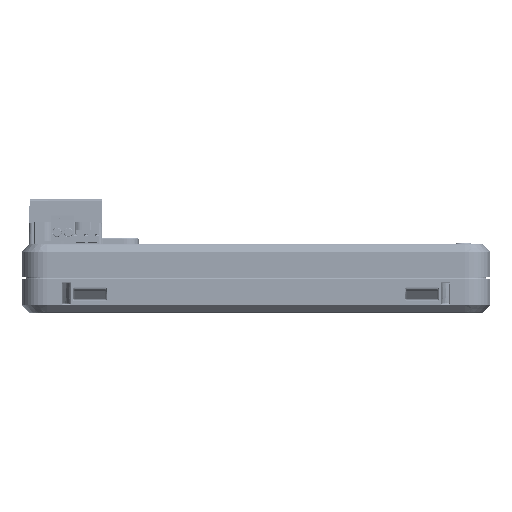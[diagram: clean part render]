
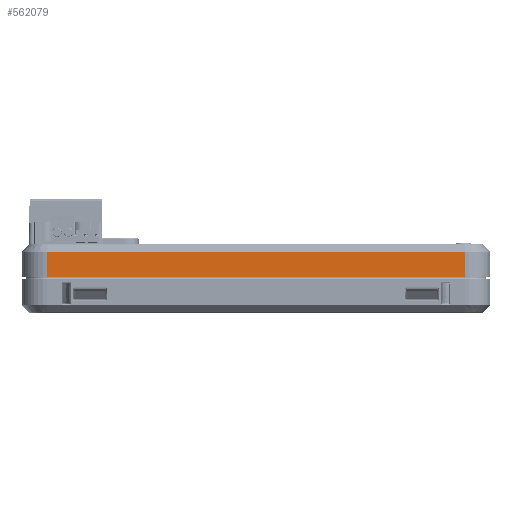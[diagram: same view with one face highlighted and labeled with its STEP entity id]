
A CAD part, left-side view. The second image highlights one B-rep face of the part: STEP entity #562079.
In plain terms, the highlighted planar face has unit normal (-1, 0, 0).
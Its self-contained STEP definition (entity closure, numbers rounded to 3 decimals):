
#3533 = CARTESIAN_POINT ( 'NONE',  ( -73.076, -63.97, 8.866 ) ) ;
#13667 = EDGE_CURVE ( 'NONE', #139167, #134682, #630482, .T. ) ;
#26955 = DIRECTION ( 'NONE',  ( 0., 1., 0. ) ) ;
#63085 = CARTESIAN_POINT ( 'NONE',  ( -73.076, 63.97, -6.223 ) ) ;
#63470 = ORIENTED_EDGE ( 'NONE', *, *, #525551, .T. ) ;
#66102 = LINE ( 'NONE', #266763, #447574 ) ;
#98689 = ORIENTED_EDGE ( 'NONE', *, *, #13667, .F. ) ;
#117649 = DIRECTION ( 'NONE',  ( 0., 0., 1. ) ) ;
#134682 = VERTEX_POINT ( 'NONE', #281087 ) ;
#139167 = VERTEX_POINT ( 'NONE', #478950 ) ;
#164464 = CARTESIAN_POINT ( 'NONE',  ( -73.076, -63.97, 1.371 ) ) ;
#266763 = CARTESIAN_POINT ( 'NONE',  ( -73.076, -63.97, 1.371 ) ) ;
#267050 = VECTOR ( 'NONE', #449325, 1000. ) ;
#269702 = DIRECTION ( 'NONE',  ( 0., 1., 0. ) ) ;
#270466 = DIRECTION ( 'NONE',  ( -1., 0., 0. ) ) ;
#277244 = FACE_OUTER_BOUND ( 'NONE', #458013, .T. ) ;
#281087 = CARTESIAN_POINT ( 'NONE',  ( -73.076, 63.97, 1.371 ) ) ;
#295430 = LINE ( 'NONE', #503047, #510276 ) ;
#299479 = LINE ( 'NONE', #554867, #267050 ) ;
#328320 = EDGE_CURVE ( 'NONE', #134682, #548916, #299479, .T. ) ;
#328938 = ORIENTED_EDGE ( 'NONE', *, *, #328320, .F. ) ;
#362212 = AXIS2_PLACEMENT_3D ( 'NONE', #63085, #270466, #117649 ) ;
#372613 = PLANE ( 'NONE',  #362212 ) ;
#440314 = CARTESIAN_POINT ( 'NONE',  ( -73.076, 63.97, 8.866 ) ) ;
#447574 = VECTOR ( 'NONE', #573241, 1000. ) ;
#449325 = DIRECTION ( 'NONE',  ( 0., 0., 1. ) ) ;
#458013 = EDGE_LOOP ( 'NONE', ( #328938, #98689, #63470, #527339 ) ) ;
#478950 = CARTESIAN_POINT ( 'NONE',  ( -73.076, -63.97, 1.371 ) ) ;
#491722 = EDGE_CURVE ( 'NONE', #597788, #548916, #295430, .T. ) ;
#503047 = CARTESIAN_POINT ( 'NONE',  ( -73.076, -63.97, 8.866 ) ) ;
#510276 = VECTOR ( 'NONE', #26955, 1000. ) ;
#525551 = EDGE_CURVE ( 'NONE', #139167, #597788, #66102, .T. ) ;
#527339 = ORIENTED_EDGE ( 'NONE', *, *, #491722, .T. ) ;
#532361 = VECTOR ( 'NONE', #269702, 1000. ) ;
#548916 = VERTEX_POINT ( 'NONE', #440314 ) ;
#554867 = CARTESIAN_POINT ( 'NONE',  ( -73.076, 63.97, 1.371 ) ) ;
#562079 = ADVANCED_FACE ( 'NONE', ( #277244 ), #372613, .T. ) ;
#573241 = DIRECTION ( 'NONE',  ( 0., 0., 1. ) ) ;
#597788 = VERTEX_POINT ( 'NONE', #3533 ) ;
#630482 = LINE ( 'NONE', #164464, #532361 ) ;
